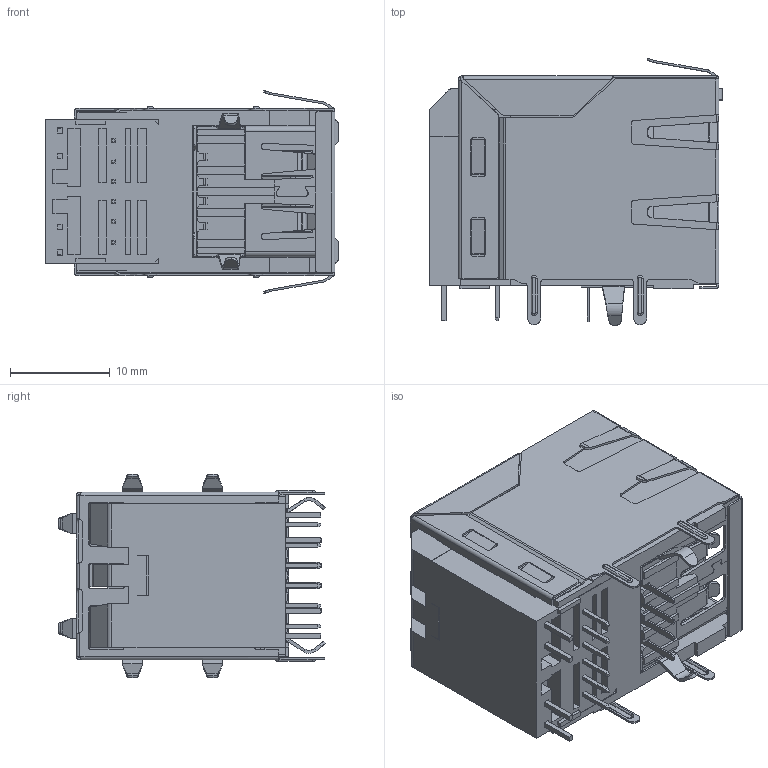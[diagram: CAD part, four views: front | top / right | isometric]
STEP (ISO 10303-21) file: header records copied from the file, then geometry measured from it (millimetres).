
FILE_DESCRIPTION((''),'2;1');
FILE_NAME('DGKYD611U2B101DB2WD','2023-04-11T19:51:24',('Administrator'),(''),'CREO PARAMETRIC BY PTC INC, 2019010','CREO PARAMETRIC BY PTC INC, 2019010','');
FILE_SCHEMA(('CONFIG_CONTROL_DESIGN'));
Products named in the file (1): DGKYD611U2B101DB2WD
Bounding box: 29.35 x 26.78 x 20.36 mm (x, y, z)
Volume: 4629.9 mm3; surface area: 12095.9 mm2
Topology: 2 solids, 6 shells, 2697 faces, 7845 edges, 5073 vertices
Faces by surface type: plane 2044, cylinder 565, bspline 70, torus 13, cone 4, extrusion 1
Entity records: 94325 total; most frequent: CARTESIAN_POINT 22777, ORIENTED_EDGE 15654, DIRECTION 13818, EDGE_CURVE 7845, VECTOR 6486, LINE 6485, VERTEX_POINT 5073, AXIS2_PLACEMENT_3D 3666
